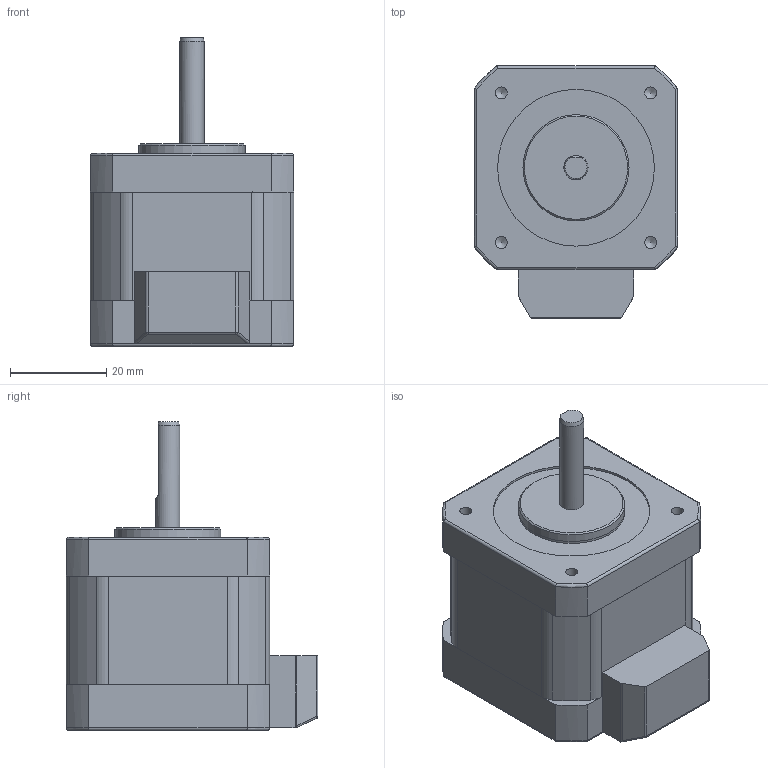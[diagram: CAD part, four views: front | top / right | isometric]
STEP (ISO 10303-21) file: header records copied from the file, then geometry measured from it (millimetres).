
FILE_DESCRIPTION( ('This file contains a STEP AP42 implementation' ,'as created by ZW3D STEP Interface translator.') ,'2;1' );
FILE_NAME( 'AM510A-42A0045-0000.stp' ,'24 719.185424', (''), ('ZWCAD Software Co.'), 'Version 1.0', 'ZW3D to STEP translator', '' );
FILE_SCHEMA(('AUTOMOTIVE_DESIGN { 1 0 10303 214 1 1 1 1 }'));
Length unit declared in the file: millimetre
Products named in the file (2): 0; AM510A-42A0025-0000
Bounding box: 42.2 x 52.2 x 64 mm (x, y, z)
Volume: 72460.5 mm3; surface area: 19372 mm2
Topology: 6 solids, 6 shells, 99 faces, 264 edges, 227 vertices
Faces by surface type: cylinder 42, plane 34, bspline 15, cone 6, sphere 2
Full cylindrical faces by diameter (mm): 2.5 x8, 5 x1, 22 x2, 32.5 x1
Entity records: 3557 total; most frequent: CARTESIAN_POINT 1072, DIRECTION 484, ORIENTED_EDGE 440, EDGE_CURVE 220, AXIS2_PLACEMENT_3D 178, VERTEX_POINT 139, VECTOR 128, LINE 128
